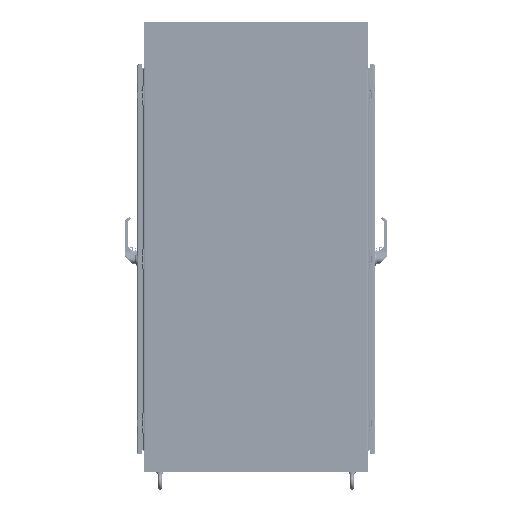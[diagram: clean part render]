
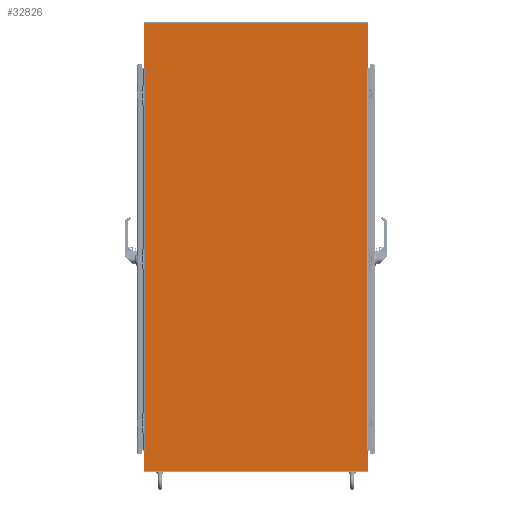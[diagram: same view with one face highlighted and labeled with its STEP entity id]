
A CAD part, front view. The second image highlights one B-rep face of the part: STEP entity #32826.
In plain terms, the highlighted planar face has unit normal (0, -1, 0) as drawn and (0, 1, 0) by its records, which use the part's own axes.
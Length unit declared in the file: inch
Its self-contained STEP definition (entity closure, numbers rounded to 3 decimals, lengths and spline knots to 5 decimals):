
#27399=CARTESIAN_POINT('',(-35.702,0.,-35.806));
#27400=DIRECTION('',(0.,1.,0.));
#27401=DIRECTION('',(0.,0.,-1.));
#27402=AXIS2_PLACEMENT_3D('',#27399,#27400,#27401);
#27407=CARTESIAN_POINT('',(-0.09,0.,-35.806));
#27408=DIRECTION('',(0.,1.,0.));
#27409=DIRECTION('',(1.,0.,0.));
#27410=AXIS2_PLACEMENT_3D('',#27407,#27408,#27409);
#27415=DIRECTION('',(0.,0.,-1.));
#27416=VECTOR('',#27415,7.22341);
#27417=CARTESIAN_POINT('',(0.,0.,-28.58259));
#27418=LINE('',#27417,#27416);
#27422=DIRECTION('',(-0.985,0.,0.174));
#27423=VECTOR('',#27422,0.08631);
#27424=CARTESIAN_POINT('',(0.,0.,-28.58259));
#27425=LINE('',#27424,#27423);
#27429=DIRECTION('',(0.,0.,-1.));
#27430=VECTOR('',#27429,0.0156);
#27431=CARTESIAN_POINT('',(-0.085,0.,-28.552));
#27432=LINE('',#27431,#27430);
#27436=DIRECTION('',(0.,0.,1.));
#27437=VECTOR('',#27436,0.0156);
#27438=CARTESIAN_POINT('',(-0.085,0.,32.552));
#27439=LINE('',#27438,#27437);
#27443=DIRECTION('',(-0.985,0.,-0.174));
#27444=VECTOR('',#27443,0.08631);
#27445=CARTESIAN_POINT('',(0.,0.,32.58259));
#27446=LINE('',#27445,#27444);
#27450=DIRECTION('',(0.,0.,-1.));
#27451=VECTOR('',#27450,3.22341);
#27452=CARTESIAN_POINT('',(0.,0.,35.806));
#27453=LINE('',#27452,#27451);
#27457=CARTESIAN_POINT('',(-0.09,0.,35.806));
#27458=DIRECTION('',(0.,1.,0.));
#27459=DIRECTION('',(0.,0.,1.));
#27460=AXIS2_PLACEMENT_3D('',#27457,#27458,#27459);
#27465=CARTESIAN_POINT('',(-35.702,0.,35.806));
#27466=DIRECTION('',(0.,1.,0.));
#27467=DIRECTION('',(-1.,0.,0.));
#27468=AXIS2_PLACEMENT_3D('',#27465,#27466,#27467);
#27473=DIRECTION('',(0.985,0.,-0.174));
#27474=VECTOR('',#27473,0.08631);
#27475=CARTESIAN_POINT('',(-35.792,0.,32.58259));
#27476=LINE('',#27475,#27474);
#27480=DIRECTION('',(0.,0.,1.));
#27481=VECTOR('',#27480,0.0156);
#27482=CARTESIAN_POINT('',(-35.707,0.,32.552));
#27483=LINE('',#27482,#27481);
#27487=DIRECTION('',(0.,0.,-1.));
#27488=VECTOR('',#27487,0.0156);
#27489=CARTESIAN_POINT('',(-35.707,0.,-28.552));
#27490=LINE('',#27489,#27488);
#27494=DIRECTION('',(0.985,0.,0.174));
#27495=VECTOR('',#27494,0.08631);
#27496=CARTESIAN_POINT('',(-35.792,0.,-28.58259));
#27497=LINE('',#27496,#27495);
#27508=DIRECTION('',(0.,0.,-1.));
#27509=VECTOR('',#27508,7.22341);
#27510=CARTESIAN_POINT('',(-35.792,0.,-28.58259));
#27511=LINE('',#27510,#27509);
#27550=DIRECTION('',(0.,0.,-1.));
#27551=VECTOR('',#27550,3.22341);
#27552=CARTESIAN_POINT('',(-35.792,0.,35.806));
#27553=LINE('',#27552,#27551);
#27611=DIRECTION('',(0.,0.,-1.));
#27612=VECTOR('',#27611,61.104);
#27613=CARTESIAN_POINT('',(-35.707,0.,32.552));
#27614=LINE('',#27613,#27612);
#28565=DIRECTION('',(-1.,0.,0.));
#28566=VECTOR('',#28565,35.612);
#28567=CARTESIAN_POINT('',(-0.09,0.,35.896));
#28568=LINE('',#28567,#28566);
#28635=DIRECTION('',(-1.,0.,0.));
#28636=VECTOR('',#28635,35.612);
#28637=CARTESIAN_POINT('',(-0.09,0.,-35.896));
#28638=LINE('',#28637,#28636);
#28689=DIRECTION('',(0.,0.,1.));
#28690=VECTOR('',#28689,61.104);
#28691=CARTESIAN_POINT('',(-0.085,0.,-28.552));
#28692=LINE('',#28691,#28690);
#32019=CARTESIAN_POINT('',(-0.085,0.,32.552));
#32020=CARTESIAN_POINT('',(-0.085,0.,32.5676));
#32021=VERTEX_POINT('',#32019);
#32022=VERTEX_POINT('',#32020);
#32023=CARTESIAN_POINT('',(0.,0.,32.58259));
#32024=VERTEX_POINT('',#32023);
#32031=CARTESIAN_POINT('',(-0.085,0.,-28.552));
#32032=CARTESIAN_POINT('',(-0.085,0.,-28.5676));
#32033=VERTEX_POINT('',#32031);
#32034=VERTEX_POINT('',#32032);
#32035=CARTESIAN_POINT('',(0.,0.,-28.58259));
#32036=VERTEX_POINT('',#32035);
#32059=CARTESIAN_POINT('',(0.,0.,-35.806));
#32060=CARTESIAN_POINT('',(-0.09,0.,-35.896));
#32061=VERTEX_POINT('',#32059);
#32062=VERTEX_POINT('',#32060);
#32067=CARTESIAN_POINT('',(-0.09,0.,35.896));
#32068=CARTESIAN_POINT('',(0.,0.,35.806));
#32069=VERTEX_POINT('',#32067);
#32070=VERTEX_POINT('',#32068);
#32187=CARTESIAN_POINT('',(-35.707,0.,-28.552));
#32188=CARTESIAN_POINT('',(-35.707,0.,-28.5676));
#32189=VERTEX_POINT('',#32187);
#32190=VERTEX_POINT('',#32188);
#32191=CARTESIAN_POINT('',(-35.792,0.,-28.58259));
#32192=VERTEX_POINT('',#32191);
#32199=CARTESIAN_POINT('',(-35.707,0.,32.552));
#32200=CARTESIAN_POINT('',(-35.707,0.,32.5676));
#32201=VERTEX_POINT('',#32199);
#32202=VERTEX_POINT('',#32200);
#32203=CARTESIAN_POINT('',(-35.792,0.,32.58259));
#32204=VERTEX_POINT('',#32203);
#32227=CARTESIAN_POINT('',(-35.702,0.,-35.896));
#32228=CARTESIAN_POINT('',(-35.792,0.,-35.806));
#32229=VERTEX_POINT('',#32227);
#32230=VERTEX_POINT('',#32228);
#32235=CARTESIAN_POINT('',(-35.792,0.,35.806));
#32236=CARTESIAN_POINT('',(-35.702,0.,35.896));
#32237=VERTEX_POINT('',#32235);
#32238=VERTEX_POINT('',#32236);
#32779=CARTESIAN_POINT('',(0.,0.,35.896));
#32780=DIRECTION('',(0.,1.,0.));
#32781=DIRECTION('',(-1.,0.,0.));
#32782=AXIS2_PLACEMENT_3D('',#32779,#32780,#32781);
#32783=PLANE('',#32782);
#32785=ORIENTED_EDGE('',*,*,#32784,.F.);
#32787=ORIENTED_EDGE('',*,*,#32786,.F.);
#32789=ORIENTED_EDGE('',*,*,#32788,.F.);
#32791=ORIENTED_EDGE('',*,*,#32790,.F.);
#32793=ORIENTED_EDGE('',*,*,#32792,.T.);
#32795=ORIENTED_EDGE('',*,*,#32794,.F.);
#32797=ORIENTED_EDGE('',*,*,#32796,.T.);
#32799=ORIENTED_EDGE('',*,*,#32798,.T.);
#32801=ORIENTED_EDGE('',*,*,#32800,.F.);
#32803=ORIENTED_EDGE('',*,*,#32802,.F.);
#32805=ORIENTED_EDGE('',*,*,#32804,.F.);
#32807=ORIENTED_EDGE('',*,*,#32806,.T.);
#32809=ORIENTED_EDGE('',*,*,#32808,.F.);
#32811=ORIENTED_EDGE('',*,*,#32810,.T.);
#32813=ORIENTED_EDGE('',*,*,#32812,.T.);
#32815=ORIENTED_EDGE('',*,*,#32814,.F.);
#32817=ORIENTED_EDGE('',*,*,#32816,.T.);
#32819=ORIENTED_EDGE('',*,*,#32818,.T.);
#32821=ORIENTED_EDGE('',*,*,#32820,.F.);
#32823=ORIENTED_EDGE('',*,*,#32822,.T.);
#32824=EDGE_LOOP('',(#32785,#32787,#32789,#32791,#32793,#32795,#32797,#32799,
#32801,#32803,#32805,#32807,#32809,#32811,#32813,#32815,#32817,#32819,#32821,
#32823));
#32825=FACE_OUTER_BOUND('',#32824,.F.);
#27403=CIRCLE('',#27402,0.09);
#27411=CIRCLE('',#27410,0.09);
#27461=CIRCLE('',#27460,0.09);
#27469=CIRCLE('',#27468,0.09);
#32784=EDGE_CURVE('',#32229,#32230,#27403,.T.);
#32786=EDGE_CURVE('',#32062,#32229,#28638,.T.);
#32788=EDGE_CURVE('',#32061,#32062,#27411,.T.);
#32790=EDGE_CURVE('',#32036,#32061,#27418,.T.);
#32792=EDGE_CURVE('',#32036,#32034,#27425,.T.);
#32794=EDGE_CURVE('',#32033,#32034,#27432,.T.);
#32796=EDGE_CURVE('',#32033,#32021,#28692,.T.);
#32798=EDGE_CURVE('',#32021,#32022,#27439,.T.);
#32800=EDGE_CURVE('',#32024,#32022,#27446,.T.);
#32802=EDGE_CURVE('',#32070,#32024,#27453,.T.);
#32804=EDGE_CURVE('',#32069,#32070,#27461,.T.);
#32806=EDGE_CURVE('',#32069,#32238,#28568,.T.);
#32808=EDGE_CURVE('',#32237,#32238,#27469,.T.);
#32810=EDGE_CURVE('',#32237,#32204,#27553,.T.);
#32812=EDGE_CURVE('',#32204,#32202,#27476,.T.);
#32814=EDGE_CURVE('',#32201,#32202,#27483,.T.);
#32816=EDGE_CURVE('',#32201,#32189,#27614,.T.);
#32818=EDGE_CURVE('',#32189,#32190,#27490,.T.);
#32820=EDGE_CURVE('',#32192,#32190,#27497,.T.);
#32822=EDGE_CURVE('',#32192,#32230,#27511,.T.);
#32826=ADVANCED_FACE('',(#32825),#32783,.T.);
